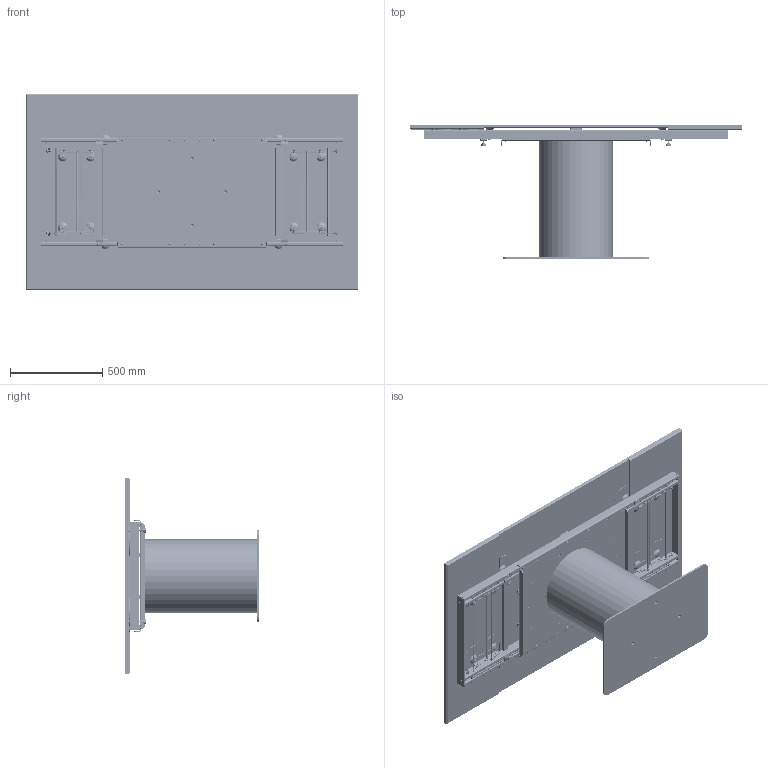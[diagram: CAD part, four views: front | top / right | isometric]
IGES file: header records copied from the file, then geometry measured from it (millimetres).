
Start section: SolidWorks IGES file using analytic representation for surfaces
Global section: file name: Y:\eforma\TECNICO\SOLIDWORKS\E-FORMA\1-TAVOLI\CILINDRO ALLUNGABILE\02 parts\CA31C_CLOSE.IGS; native system: SolidWorks 2022; preprocessor: SolidWorks 2022; author: eforma.tech; date: 240808.120958; units: millimetre
Bounding box: 1800 x 724.5 x 1060 mm (x, y, z)
Volume: 48650965.6 mm3; surface area: 18496487.8 mm2
Topology: 162 solids, 162 shells, 8326 faces, 60748 edges, 57044 vertices
Faces by surface type: revolution 4456, bspline 2242, plane 1628
